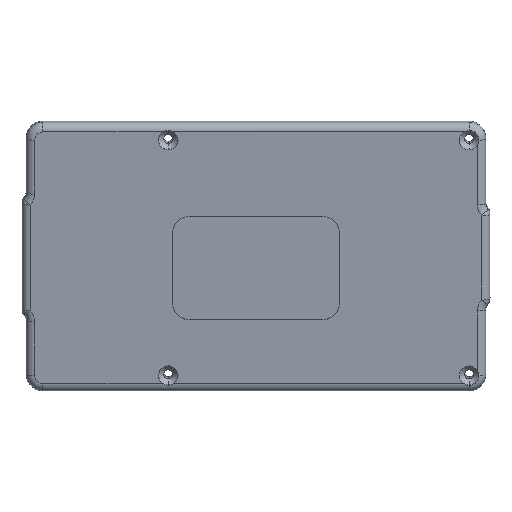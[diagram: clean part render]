
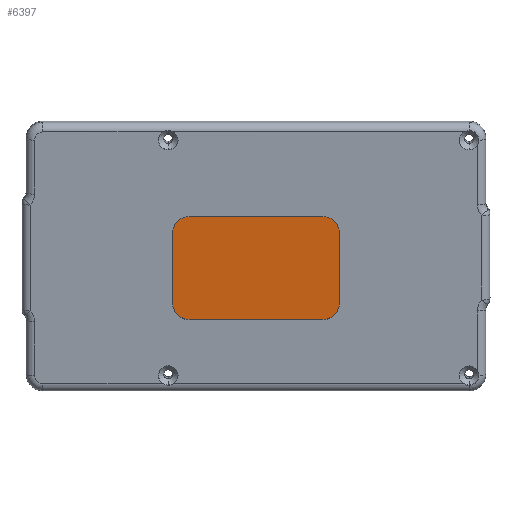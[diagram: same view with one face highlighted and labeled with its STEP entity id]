
A CAD part, front view. The second image highlights one B-rep face of the part: STEP entity #6397.
In plain terms, the highlighted planar face has unit normal (-0.001, -0.988, -0.153).
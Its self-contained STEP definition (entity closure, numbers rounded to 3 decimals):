
#120 = AXIS2_PLACEMENT_3D ( 'NONE', #5321, #2759, #4612 ) ;
#191 = ORIENTED_EDGE ( 'NONE', *, *, #9587, .T. ) ;
#452 = CARTESIAN_POINT ( 'NONE',  ( 15.92, -111.108, -8.581 ) ) ;
#573 = DIRECTION ( 'NONE',  ( -0.001, -0.988, -0.153 ) ) ;
#625 = DIRECTION ( 'NONE',  ( 0., 0.153, -0.988 ) ) ;
#1284 = CARTESIAN_POINT ( 'NONE',  ( 15.92, -108.51, -25.381 ) ) ;
#1411 = DIRECTION ( 'NONE',  ( 0., 0.153, -0.988 ) ) ;
#1449 = CARTESIAN_POINT ( 'NONE',  ( -16.08, -111.085, -8.577 ) ) ;
#1556 = CARTESIAN_POINT ( 'NONE',  ( 19.92, -111.111, -8.581 ) ) ;
#1599 = EDGE_CURVE ( 'NONE', #10096, #2796, #2891, .T. ) ;
#1706 = VERTEX_POINT ( 'NONE', #3959 ) ;
#1819 = DIRECTION ( 'NONE',  ( -1., 0.001, 0. ) ) ;
#2095 = CARTESIAN_POINT ( 'NONE',  ( 15.92, -108.51, -25.381 ) ) ;
#2253 = CARTESIAN_POINT ( 'NONE',  ( -16.08, -111.696, -4.624 ) ) ;
#2759 = DIRECTION ( 'NONE',  ( -0.001, -0.988, -0.153 ) ) ;
#2796 = VERTEX_POINT ( 'NONE', #6746 ) ;
#2891 = CIRCLE ( 'NONE', #120, 4. ) ;
#2964 = CARTESIAN_POINT ( 'NONE',  ( 15.92, -111.719, -4.628 ) ) ;
#3036 = CARTESIAN_POINT ( 'NONE',  ( -20.08, -108.484, -25.377 ) ) ;
#3184 = LINE ( 'NONE', #7267, #9929 ) ;
#3340 = EDGE_CURVE ( 'NONE', #7542, #1706, #6227, .T. ) ;
#3643 = ORIENTED_EDGE ( 'NONE', *, *, #7282, .T. ) ;
#3764 = DIRECTION ( 'NONE',  ( 0., -0.153, 0.988 ) ) ;
#3793 = EDGE_CURVE ( 'NONE', #10098, #5001, #9915, .T. ) ;
#3959 = CARTESIAN_POINT ( 'NONE',  ( -20.08, -111.082, -8.577 ) ) ;
#4146 = CARTESIAN_POINT ( 'NONE',  ( 19.92, -108.513, -25.382 ) ) ;
#4188 = AXIS2_PLACEMENT_3D ( 'NONE', #1284, #573, #4592 ) ;
#4550 = EDGE_CURVE ( 'NONE', #1706, #10096, #5644, .T. ) ;
#4592 = DIRECTION ( 'NONE',  ( 0., 0.153, -0.988 ) ) ;
#4612 = DIRECTION ( 'NONE',  ( 0., -0.153, 0.988 ) ) ;
#4750 = ORIENTED_EDGE ( 'NONE', *, *, #4550, .T. ) ;
#5001 = VERTEX_POINT ( 'NONE', #1556 ) ;
#5054 = AXIS2_PLACEMENT_3D ( 'NONE', #2095, #8072, #625 ) ;
#5208 = VECTOR ( 'NONE', #1411, 1000. ) ;
#5321 = CARTESIAN_POINT ( 'NONE',  ( -16.08, -108.487, -25.378 ) ) ;
#5369 = AXIS2_PLACEMENT_3D ( 'NONE', #1449, #7259, #6438 ) ;
#5376 = VECTOR ( 'NONE', #8286, 1000. ) ;
#5644 = LINE ( 'NONE', #8755, #5208 ) ;
#5967 = AXIS2_PLACEMENT_3D ( 'NONE', #452, #10247, #3764 ) ;
#6227 = CIRCLE ( 'NONE', #5369, 4. ) ;
#6397 = ADVANCED_FACE ( 'Face9', ( #10371 ), #8679, .T. ) ;
#6438 = DIRECTION ( 'NONE',  ( 0., -0.153, 0.988 ) ) ;
#6474 = EDGE_CURVE ( 'NONE', #10589, #10098, #10278, .T. ) ;
#6501 = DIRECTION ( 'NONE',  ( 1., -0.001, 0. ) ) ;
#6656 = LINE ( 'NONE', #6815, #8908 ) ;
#6697 = EDGE_LOOP ( 'NONE', ( #8680, #7977, #191, #7959, #8703, #4750, #8445, #3643 ) ) ;
#6746 = CARTESIAN_POINT ( 'NONE',  ( -16.08, -107.876, -29.331 ) ) ;
#6815 = CARTESIAN_POINT ( 'NONE',  ( -16.08, -111.696, -4.624 ) ) ;
#7259 = DIRECTION ( 'NONE',  ( -0.001, -0.988, -0.153 ) ) ;
#7267 = CARTESIAN_POINT ( 'NONE',  ( -16.08, -107.876, -29.331 ) ) ;
#7282 = EDGE_CURVE ( 'NONE', #2796, #10589, #3184, .T. ) ;
#7533 = CIRCLE ( 'NONE', #5967, 4. ) ;
#7542 = VERTEX_POINT ( 'NONE', #2253 ) ;
#7823 = VERTEX_POINT ( 'NONE', #2964 ) ;
#7959 = ORIENTED_EDGE ( 'NONE', *, *, #7967, .T. ) ;
#7967 = EDGE_CURVE ( 'NONE', #7823, #7542, #6656, .T. ) ;
#7977 = ORIENTED_EDGE ( 'NONE', *, *, #3793, .T. ) ;
#8072 = DIRECTION ( 'NONE',  ( -0.001, -0.988, -0.153 ) ) ;
#8286 = DIRECTION ( 'NONE',  ( 0., -0.153, 0.988 ) ) ;
#8445 = ORIENTED_EDGE ( 'NONE', *, *, #1599, .T. ) ;
#8679 = PLANE ( 'NONE',  #5054 ) ;
#8680 = ORIENTED_EDGE ( 'NONE', *, *, #6474, .T. ) ;
#8703 = ORIENTED_EDGE ( 'NONE', *, *, #3340, .T. ) ;
#8755 = CARTESIAN_POINT ( 'NONE',  ( -20.08, -108.484, -25.377 ) ) ;
#8908 = VECTOR ( 'NONE', #1819, 1000. ) ;
#9368 = CARTESIAN_POINT ( 'NONE',  ( 15.92, -107.899, -29.334 ) ) ;
#9587 = EDGE_CURVE ( 'NONE', #5001, #7823, #7533, .T. ) ;
#9681 = CARTESIAN_POINT ( 'NONE',  ( 19.92, -108.513, -25.382 ) ) ;
#9915 = LINE ( 'NONE', #4146, #5376 ) ;
#9929 = VECTOR ( 'NONE', #6501, 1000. ) ;
#10096 = VERTEX_POINT ( 'NONE', #3036 ) ;
#10098 = VERTEX_POINT ( 'NONE', #9681 ) ;
#10247 = DIRECTION ( 'NONE',  ( -0.001, -0.988, -0.153 ) ) ;
#10278 = CIRCLE ( 'NONE', #4188, 4. ) ;
#10371 = FACE_OUTER_BOUND ( 'NONE', #6697, .T. ) ;
#10589 = VERTEX_POINT ( 'NONE', #9368 ) ;
